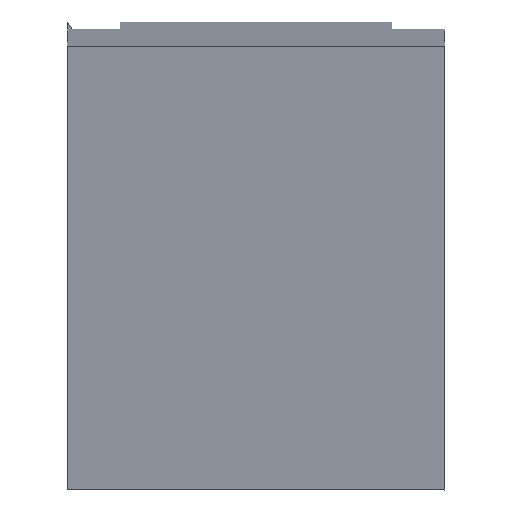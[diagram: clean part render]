
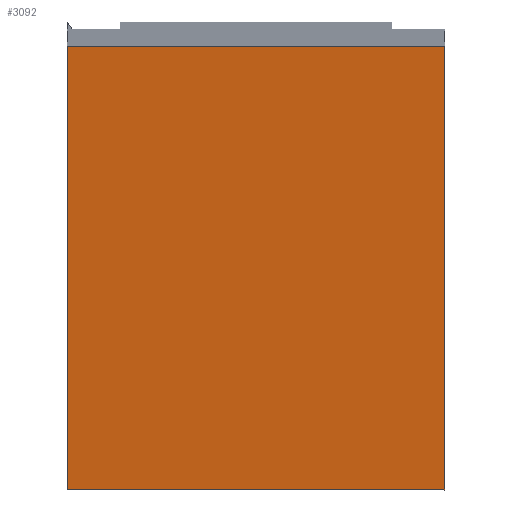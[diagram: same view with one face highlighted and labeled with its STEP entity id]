
A CAD part, top view. The second image highlights one B-rep face of the part: STEP entity #3092.
In plain terms, the highlighted planar face has unit normal (0, -0.139, 0.99).
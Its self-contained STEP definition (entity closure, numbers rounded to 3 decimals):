
#126 = DIRECTION ( 'NONE',  ( 0., -0.99, -0.139 ) ) ;
#134 = LINE ( 'NONE', #3888, #3734 ) ;
#212 = VECTOR ( 'NONE', #3171, 1000. ) ;
#228 = CARTESIAN_POINT ( 'NONE',  ( 0., -2.45, 17.471 ) ) ;
#401 = EDGE_CURVE ( 'NONE', #3966, #4211, #3768, .T. ) ;
#1385 = ORIENTED_EDGE ( 'NONE', *, *, #2853, .T. ) ;
#1936 = DIRECTION ( 'NONE',  ( 0., 0.99, 0.139 ) ) ;
#1964 = CARTESIAN_POINT ( 'NONE',  ( -20.584, 33.313, 22.487 ) ) ;
#2048 = CARTESIAN_POINT ( 'NONE',  ( 22.171, -14.003, 15.85 ) ) ;
#2088 = DIRECTION ( 'NONE',  ( 0., 0.99, 0.139 ) ) ;
#2126 = CARTESIAN_POINT ( 'NONE',  ( 22.171, 33.313, 22.487 ) ) ;
#2161 = DIRECTION ( 'NONE',  ( 0., 0.139, -0.99 ) ) ;
#2427 = VECTOR ( 'NONE', #1936, 1000. ) ;
#2520 = CARTESIAN_POINT ( 'NONE',  ( -20.584, -16.974, 15.433 ) ) ;
#2740 = LINE ( 'NONE', #6331, #7130 ) ;
#2853 = EDGE_CURVE ( 'NONE', #2915, #4160, #5351, .T. ) ;
#2915 = VERTEX_POINT ( 'NONE', #5464 ) ;
#3092 = ADVANCED_FACE ( 'NONE', ( #3375 ), #7678, .F. ) ;
#3171 = DIRECTION ( 'NONE',  ( 1., 0., 0. ) ) ;
#3375 = FACE_OUTER_BOUND ( 'NONE', #6998, .T. ) ;
#3385 = CARTESIAN_POINT ( 'NONE',  ( 22.171, -14.003, 15.85 ) ) ;
#3469 = VECTOR ( 'NONE', #2088, 1000. ) ;
#3734 = VECTOR ( 'NONE', #7619, 1000. ) ;
#3756 = EDGE_CURVE ( 'NONE', #4211, #6827, #134, .T. ) ;
#3768 = LINE ( 'NONE', #5037, #2427 ) ;
#3888 = CARTESIAN_POINT ( 'NONE',  ( 22.171, 33.313, 22.487 ) ) ;
#3966 = VERTEX_POINT ( 'NONE', #6211 ) ;
#3987 = DIRECTION ( 'NONE',  ( 0., 0.99, 0.139 ) ) ;
#4160 = VERTEX_POINT ( 'NONE', #2048 ) ;
#4211 = VERTEX_POINT ( 'NONE', #1964 ) ;
#4641 = AXIS2_PLACEMENT_3D ( 'NONE', #228, #2161, #3987 ) ;
#4815 = ORIENTED_EDGE ( 'NONE', *, *, #4994, .F. ) ;
#4994 = EDGE_CURVE ( 'NONE', #6827, #4160, #2740, .T. ) ;
#5037 = CARTESIAN_POINT ( 'NONE',  ( -20.584, 33.313, 22.487 ) ) ;
#5279 = EDGE_CURVE ( 'NONE', #3966, #2915, #7590, .T. ) ;
#5351 = LINE ( 'NONE', #3385, #3469 ) ;
#5464 = CARTESIAN_POINT ( 'NONE',  ( 22.171, -16.974, 15.434 ) ) ;
#6211 = CARTESIAN_POINT ( 'NONE',  ( -20.584, -16.974, 15.433 ) ) ;
#6331 = CARTESIAN_POINT ( 'NONE',  ( 22.171, 33.313, 22.487 ) ) ;
#6765 = ORIENTED_EDGE ( 'NONE', *, *, #5279, .T. ) ;
#6827 = VERTEX_POINT ( 'NONE', #2126 ) ;
#6998 = EDGE_LOOP ( 'NONE', ( #4815, #7604, #7280, #6765, #1385 ) ) ;
#7130 = VECTOR ( 'NONE', #126, 1000. ) ;
#7280 = ORIENTED_EDGE ( 'NONE', *, *, #401, .F. ) ;
#7590 = LINE ( 'NONE', #2520, #212 ) ;
#7604 = ORIENTED_EDGE ( 'NONE', *, *, #3756, .F. ) ;
#7619 = DIRECTION ( 'NONE',  ( 1., 0., 0. ) ) ;
#7678 = PLANE ( 'NONE',  #4641 ) ;
